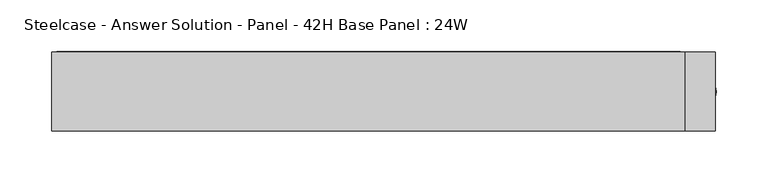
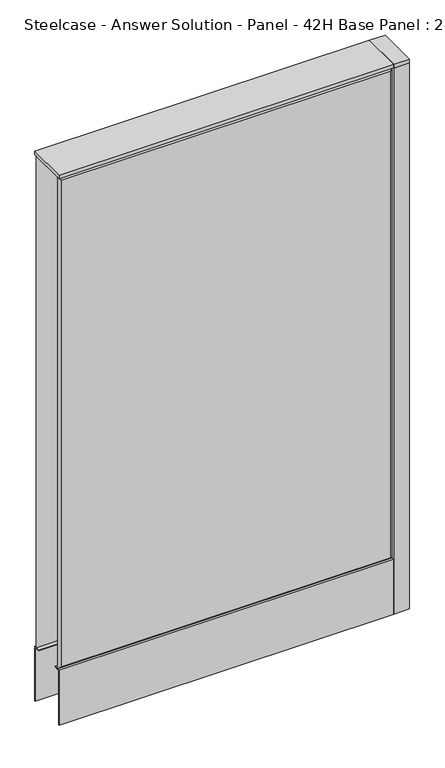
"""IFC4 building model written with IfcOpenShell, lengths in millimetres: furniture geometry, Steelcase - Answer Solution - Panel - 42H Base Panel : 24W."""

import ifcopenshell
import ifcopenshell.guid

model = None  # the IFC model being written
_history = None  # IfcOwnerHistory: only IFC2X3 demands one
_inside = {}  # id of a spatial element -> (the spatial element, [elements in it])
_under = {}  # id of a project, library or spatial element -> (it, [spatial elements below it])
_declared = {}  # id of a project -> (the project, [libraries it declares])
_typed = {}  # id of a type object -> (the type object, [elements of that type])
_made_of = {}  # id of a material, layer set ... -> (it, [elements and type objects made of it])


def new_model(schema):
    """Start an empty IFC model of exactly this schema.

    Asked for "IFC4X3", IfcOpenShell would pick the latest addendum, in which some entities
    have other attributes; the version numbers below select the first issue.
    IFC2X3 requires an IfcOwnerHistory on every rooted entity: one is made here for all.
    """
    global model, _history
    if schema == "IFC4X3":
        model = ifcopenshell.file(schema_version=(4, 3, 0, 0))
    else:
        model = ifcopenshell.file(schema=schema)
    _inside.clear()
    _under.clear()
    _declared.clear()
    _typed.clear()
    _made_of.clear()
    _history = None
    if model.schema == "IFC2X3":
        org = make("IfcOrganization", Name="unknown")
        user = make(
            "IfcPersonAndOrganization",
            ThePerson=make("IfcPerson", FamilyName="unknown"),
            TheOrganization=org,
        )
        app = make(
            "IfcApplication",
            ApplicationDeveloper=org,
            Version="unknown",
            ApplicationFullName="unknown",
            ApplicationIdentifier="unknown",
        )
        _history = make(
            "IfcOwnerHistory",
            OwningUser=user,
            OwningApplication=app,
            ChangeAction="ADDED",
            CreationDate=0,
        )
    return model


def make(cls, **values):
    """One entity of the class cls with the attributes given. An attribute that is None is left unset."""
    return model.create_entity(
        cls, **{name: value for name, value in values.items() if value is not None}
    )


def rooted(cls, **values):
    """An entity with a GlobalId (a new one), such as an element, a storey or a relation."""
    return make(cls, GlobalId=ifcopenshell.guid.new(), OwnerHistory=_history, **values)


def si_unit(unit_type, name, prefix=None):
    """IfcSIUnit, for example si_unit("LENGTHUNIT", "METRE", prefix="MILLI")."""
    return make("IfcSIUnit", UnitType=unit_type, Prefix=prefix, Name=name)


def assignment(units):
    """IfcUnitAssignment: the units of a project."""
    return None if units is None else make("IfcUnitAssignment", Units=units)


def point(xyz):
    """IfcCartesianPoint."""
    return None if xyz is None else make("IfcCartesianPoint", Coordinates=xyz)


def direction(xyz):
    """IfcDirection."""
    return None if xyz is None else make("IfcDirection", DirectionRatios=xyz)


def frame(location, z_axis=None, x_axis=None):
    """IfcAxis2Placement3D, a coordinate frame: its origin and axes. An axis left out is left unset."""
    return make(
        "IfcAxis2Placement3D",
        Location=point(location),
        Axis=direction(z_axis),
        RefDirection=direction(x_axis),
    )


def frame_2d(location, x_axis=None):
    """IfcAxis2Placement2D, a coordinate frame in the plane: its origin and x axis."""
    return make(
        "IfcAxis2Placement2D", Location=point(location), RefDirection=direction(x_axis)
    )


def origin():
    """The frame at (0, 0, 0) with its axes left unset."""
    return frame((0.0, 0.0, 0.0))


def place(relative_to, where):
    """IfcLocalPlacement: puts the frame where relative to a parent placement (None: the world)."""
    return make(
        "IfcLocalPlacement", PlacementRelTo=relative_to, RelativePlacement=where
    )


def context(
    kind, dimensions, precision=None, world=None, true_north=None, identifier=None
):
    """IfcGeometricRepresentationContext, for example the 3D "Model" context."""
    return make(
        "IfcGeometricRepresentationContext",
        ContextIdentifier=identifier,
        ContextType=kind,
        CoordinateSpaceDimension=dimensions,
        Precision=precision,
        WorldCoordinateSystem=world,
        TrueNorth=true_north,
    )


def project(units=None, contexts=None):
    """IfcProject with its units and contexts."""
    return rooted(
        "IfcProject",
        Name="project",
        RepresentationContexts=contexts,
        UnitsInContext=assignment(units),
    )


def spatial(cls, under=None, at=None, **own):
    """A site, building, storey or space (cls), placed at a placement, below another one or the project."""
    s = rooted(cls, ObjectPlacement=at, **own)
    if under is not None:
        _under.setdefault(under.id(), (under, []))[1].append(s)
    return s


def polyline(points):
    """IfcPolyline through the points."""
    return make("IfcPolyline", Points=[point(p) for p in points])


def circle_curve(where, radius):
    """IfcCircle in the frame where."""
    return make("IfcCircle", Position=where, Radius=radius)


def trimmed(basis, trim1, trim2, sense, master):
    """IfcTrimmedCurve: the piece of a basis curve between two trims."""
    return make(
        "IfcTrimmedCurve",
        BasisCurve=basis,
        Trim1=trim1,
        Trim2=trim2,
        SenseAgreement=sense,
        MasterRepresentation=master,
    )


def segment(curve, same_sense, transition):
    """IfcCompositeCurveSegment."""
    return make(
        "IfcCompositeCurveSegment",
        Transition=transition,
        SameSense=same_sense,
        ParentCurve=curve,
    )


def composite_curve(segments, self_intersect=None):
    """IfcCompositeCurve: segments joined end to end."""
    return make("IfcCompositeCurve", Segments=segments, SelfIntersect=self_intersect)


def outline(outer, holes=None, kind="AREA"):
    """IfcArbitraryClosedProfileDef: a profile drawn as a closed curve; with holes, ...WithVoids."""
    if holes is None:
        return make("IfcArbitraryClosedProfileDef", ProfileType=kind, OuterCurve=outer)
    return make(
        "IfcArbitraryProfileDefWithVoids",
        ProfileType=kind,
        OuterCurve=outer,
        InnerCurves=holes,
    )


def extrude(swept, where, along, depth):
    """IfcExtrudedAreaSolid: the profile swept, set in the frame where, extruded along a direction by depth."""
    return make(
        "IfcExtrudedAreaSolid",
        SweptArea=swept,
        Position=where,
        ExtrudedDirection=direction(along),
        Depth=depth,
    )


def faces_of(points, faces, orient=None, outer=None):
    """IfcFace entities. A face is a list of loops; a loop is a list of indices into points, from 0.

    orient and outer hold one flag for each loop. By default every Orientation is true, the
    first loop of a face is its IfcFaceOuterBound and the others are IfcFaceBound.
    """
    made = []
    for i, loops in enumerate(faces):
        bounds = []
        for j, loop in enumerate(loops):
            is_outer = j == 0 if outer is None else outer[i][j]
            bounds.append(
                make(
                    "IfcFaceOuterBound" if is_outer else "IfcFaceBound",
                    Bound=make("IfcPolyLoop", Polygon=[points[k] for k in loop]),
                    Orientation=True if orient is None else orient[i][j],
                )
            )
        made.append(make("IfcFace", Bounds=bounds))
    return made


def faceted_brep(points, faces, orient=None, outer=None, voids=None):
    """IfcFacetedBrep: a solid bounded by flat faces; with voids (closed shells), ...WithVoids."""
    shared = [point(p) for p in points]
    hull = make("IfcClosedShell", CfsFaces=faces_of(shared, faces, orient, outer))
    if voids is None:
        return make("IfcFacetedBrep", Outer=hull)
    return make(
        "IfcFacetedBrepWithVoids",
        Outer=hull,
        Voids=[
            make(cls, CfsFaces=faces_of(shared, fs, o, b)) for cls, fs, o, b in voids
        ],
    )


def shape(context_of_items, identifier, shape_type, items):
    """IfcShapeRepresentation: the items that make up one representation, for example the "Body"."""
    return make(
        "IfcShapeRepresentation",
        ContextOfItems=context_of_items,
        RepresentationIdentifier=identifier,
        RepresentationType=shape_type,
        Items=items,
    )


def source(mapping_origin, context_of_items, identifier, shape_type, items):
    """IfcRepresentationMap: a shape defined once, which mapped items show again and again."""
    return make(
        "IfcRepresentationMap",
        MappingOrigin=mapping_origin,
        MappedRepresentation=shape(context_of_items, identifier, shape_type, items),
    )


def transform(
    local_origin,
    x_axis=None,
    y_axis=None,
    z_axis=None,
    scale=None,
    scale2=None,
    scale3=None,
    uniform=True,
):
    """IfcCartesianTransformationOperator3D, or its non-uniform kind. x_axis, y_axis, z_axis: its Axis1, 2, 3."""
    if uniform:
        return make(
            "IfcCartesianTransformationOperator3D",
            Axis1=direction(x_axis),
            Axis2=direction(y_axis),
            LocalOrigin=point(local_origin),
            Scale=scale,
            Axis3=direction(z_axis),
        )
    return make(
        "IfcCartesianTransformationOperator3DnonUniform",
        Axis1=direction(x_axis),
        Axis2=direction(y_axis),
        LocalOrigin=point(local_origin),
        Scale=scale,
        Axis3=direction(z_axis),
        Scale2=scale2,
        Scale3=scale3,
    )


def mapped(mapping_source, mapping_target):
    """IfcMappedItem: shows the shape of a source again, moved by a transform."""
    return make(
        "IfcMappedItem", MappingSource=mapping_source, MappingTarget=mapping_target
    )


def made_of(thing, what):
    """Note that an element or type object is made of a material, layer set ...; save() writes the relation."""
    if what is not None:
        _made_of.setdefault(what.id(), (what, []))[1].append(thing)
    return thing


def element(
    cls,
    number,
    at=None,
    inside=None,
    cuts=None,
    type_object=None,
    material=None,
    context=None,
    identifier="Body",
    shape_type=None,
    held_by="IfcProductDefinitionShape",
    body=None,
    shapes=None,
    **own,
):
    """One element of the class cls, such as IfcWall. Its Tag is "e" and its number.

    at: its placement. inside: the storey or other place that contains it. cuts: it is an
    opening in that element (IfcRelVoidsElement). A single representation is given by context,
    identifier, shape_type and body (its items); several are given by shapes. held_by: the class
    of the entity that holds the representations. save() writes the other relations.
    """
    e = rooted(cls, Tag="e%d" % number, ObjectPlacement=at, **own)
    if body is not None:
        shapes = [shape(context, identifier, shape_type, body)]
    if shapes is not None:
        e.Representation = make(held_by, Representations=shapes)
    if inside is not None:
        _inside.setdefault(inside.id(), (inside, []))[1].append(e)
    if cuts is not None:
        rooted(
            "IfcRelVoidsElement", RelatingBuildingElement=cuts, RelatedOpeningElement=e
        )
    if type_object is not None:
        _typed.setdefault(type_object.id(), (type_object, []))[1].append(e)
    return made_of(e, material)


def aggregate(whole, parts):
    """IfcRelAggregates: a whole, such as a stair, and the parts it consists of."""
    return rooted("IfcRelAggregates", RelatingObject=whole, RelatedObjects=parts)


def save(model, path):
    """Write the relations noted so far, then the file.

    IfcRelAggregates (storeys below a building ...), IfcRelContainedInSpatialStructure (elements
    in a storey), IfcRelDefinesByType, IfcRelAssociatesMaterial and IfcRelDeclares: one each for
    every whole, place, type object, material and project.
    """
    for whole, parts in _under.values():
        aggregate(whole, parts)
    for where, things in _inside.values():
        rooted(
            "IfcRelContainedInSpatialStructure",
            RelatedElements=things,
            RelatingStructure=where,
        )
    for kind, things in _typed.values():
        rooted("IfcRelDefinesByType", RelatedObjects=things, RelatingType=kind)
    for what, things in _made_of.values():
        rooted("IfcRelAssociatesMaterial", RelatedObjects=things, RelatingMaterial=what)
    for by, libraries in _declared.values():
        rooted("IfcRelDeclares", RelatingContext=by, RelatedDefinitions=libraries)
    model.write(path)


def steelcase_answer_solution_panel_42h_base_panel_24w_5bc8fa43(model_context):
    return source(origin(), model_context, "Body", "SolidModel", [
        extrude(outline(composite_curve([segment(trimmed(circle_curve(frame_2d((319.024, -0.0039657)), 5.08), [point((324.104, -0.0039657))], [point((313.944, -0.0039657))], False, "CARTESIAN"), True, "CONTINUOUS"), segment(trimmed(circle_curve(frame_2d((319.024, -0.0039657)), 5.08), [point((313.944, -0.0039657))], [point((324.104, -0.0039657))], False, "CARTESIAN"), True, "CONTINUOUS")], self_intersect=False)), frame((0.0, 0.0, 5.0799671), z_axis=(0.0, 0.0, 1.0), x_axis=(1.0, 0.0, 0.0)), (0.0, 0.0, 1.0), 10.414),
        extrude(outline(composite_curve([segment(trimmed(circle_curve(frame_2d((319.024, -0.0039657)), 15.24), [point((334.264, -0.0039657))], [point((303.784, -0.0039657))], False, "CARTESIAN"), True, "CONTINUOUS"), segment(trimmed(circle_curve(frame_2d((319.024, -0.0039657)), 15.24), [point((303.784, -0.0039657))], [point((334.264, -0.0039657))], False, "CARTESIAN"), True, "CONTINUOUS")], self_intersect=False)), frame((0.0, 0.0, -3.29e-05), z_axis=(0.0, 0.0, 1.0), x_axis=(1.0, 0.0, 0.0)), (0.0, 0.0, 1.0), 5.08),
        extrude(outline(polyline([(333.375, -38.1039851), (304.8, -38.1039851), (304.8, 38.0960149), (333.375, 38.0960149), (333.375, -38.1039851)])), frame((0.0, 0.0, 1065.8348), z_axis=(0.0, 0.0, 1.0), x_axis=(1.0, 0.0, 0.0)), (0.0, 0.0, 1.0), 7.3151671),
        extrude(outline(polyline([(333.375, -38.1039851), (304.8, -38.1039851), (304.8, 38.0960149), (333.375, 38.0960149), (333.375, -38.1039851)])), frame((0.0, 0.0, 15.4939671), z_axis=(0.0, 0.0, 1.0), x_axis=(1.0, 0.0, 0.0)), (0.0, 0.0, 1.0), 1050.3408329),
        faceted_brep([(-299.974, -38.1635011, 1061.974), (-299.974, -38.1635011, 125.476), (299.974, -38.1635011, 125.476), (299.974, -38.1635011, 1061.974), (-304.8, -33.3375011, 1066.8), (304.8, -33.3375011, 1066.8), (304.8, -33.3375011, 120.65), (-304.8, -33.3375011, 120.65)], [[[0, 1, 2, 3]], [[4, 5, 6, 7]], [[4, 0, 3, 5]], [[5, 3, 2, 6]], [[6, 2, 1, 7]], [[7, 1, 0, 4]]]),
        faceted_brep([(299.974, 38.1635011, 1061.974), (299.974, 38.1635011, 125.476), (-299.974, 38.1635011, 125.476), (-299.974, 38.1635011, 1061.974), (304.8, 33.3375011, 1066.8), (-304.8, 33.3375011, 1066.8), (-304.8, 33.3375011, 120.65), (304.8, 33.3375011, 120.65)], [[[0, 1, 2, 3]], [[4, 5, 6, 7]], [[4, 0, 3, 5]], [[5, 3, 2, 6]], [[6, 2, 1, 7]], [[7, 1, 0, 4]]]),
        extrude(outline(polyline([(304.8, -38.1000194), (-304.8, -38.1000194), (-304.8, 38.1000194), (304.8, 38.1000194), (304.8, -38.1000194)])), frame((0.0, 0.0, 1066.8), z_axis=(0.0, 0.0, 1.0), x_axis=(1.0, 0.0, 0.0)), (0.0, 0.0, 1.0), 6.35),
        extrude(outline(polyline([(-25.4000011, 119.8575157), (-37.3075215, 119.8575157), (-37.3075215, 15.494), (-38.1000194, 15.494), (-38.1000194, 120.65), (-25.4000011, 120.65), (-25.4000011, 119.8575157)])), frame((-304.8, 0.0, 0.0), z_axis=(1.0, 0.0, 0.0), x_axis=(0.0, 1.0, 0.0)), (0.0, 0.0, 1.0), 609.6),
        extrude(outline(polyline([(25.4000011, 119.8575157), (25.4000011, 120.65), (38.1000194, 120.65), (38.1000194, 15.494), (37.3075215, 15.494), (37.3075215, 119.8575157), (25.4000011, 119.8575157)])), frame((-304.8, 0.0, 0.0), z_axis=(1.0, 0.0, 0.0), x_axis=(0.0, 1.0, 0.0)), (0.0, 0.0, 1.0), 609.6),
    ])


if __name__ == "__main__":
    model = new_model("IFC4")
    model_context = context("Model", 3, world=origin())
    ifc_project = project(units=[si_unit("LENGTHUNIT", "METRE", prefix="MILLI")], contexts=[model_context])
    site = spatial("IfcSite", under=ifc_project)
    building = spatial("IfcBuilding", under=site)
    placement = place(None, origin())
    steelcase_answer_solution_panel_42h_base_panel_24w_shape = steelcase_answer_solution_panel_42h_base_panel_24w_5bc8fa43(model_context)
    element("IfcFurniture", 1, ObjectType="Steelcase - Answer Solution - Panel - 42H Base Panel : 24W", at=placement, inside=building, context=model_context, shape_type="MappedRepresentation", body=[
        mapped(steelcase_answer_solution_panel_42h_base_panel_24w_shape, transform((0.0, 0.0, 0.0), x_axis=(1.0, 0.0, 0.0), y_axis=(0.0, 1.0, 0.0), z_axis=(0.0, 0.0, 1.0))),
    ])
    save(model, "model.ifc")
